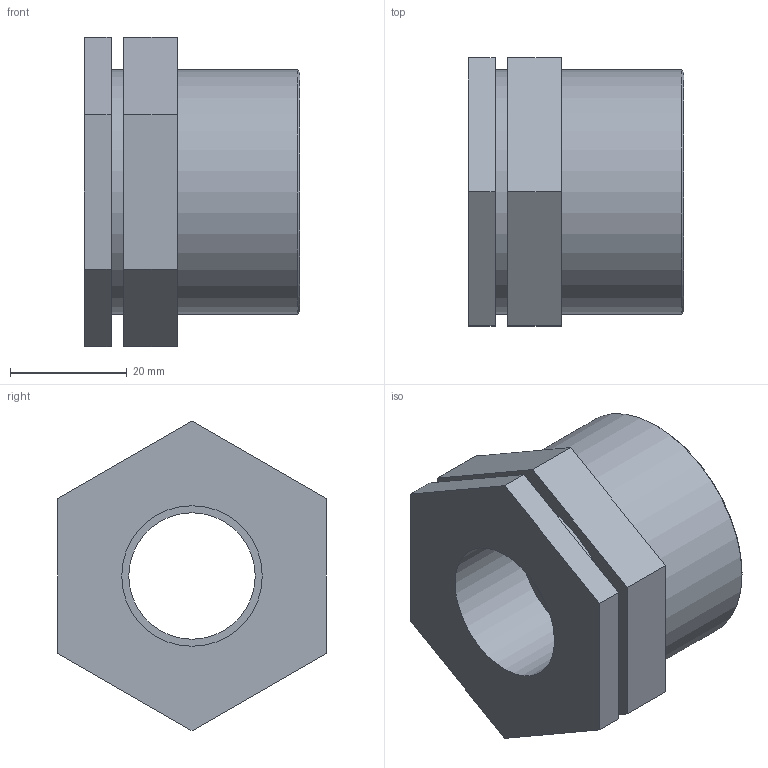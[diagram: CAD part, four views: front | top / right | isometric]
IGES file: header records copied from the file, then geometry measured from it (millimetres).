
Global section: file name: 050207013007_0502070130070A.ipt; native system: Autodesk Inventor 2015; preprocessor: unknown; author: KIM; date: 20170618.093116; units: millimetre
Bounding box: 37 x 46 x 53.12 mm (x, y, z)
Volume: 25476.8 mm3; surface area: 13716.9 mm2
Topology: 1 solids, 1 shells, 28 faces, 66 edges, 46 vertices
Faces by surface type: plane 20, revolution 4, cylinder 3, cone 1
Full cylindrical faces by diameter (mm): 28.94 x1, 41.91 x2
